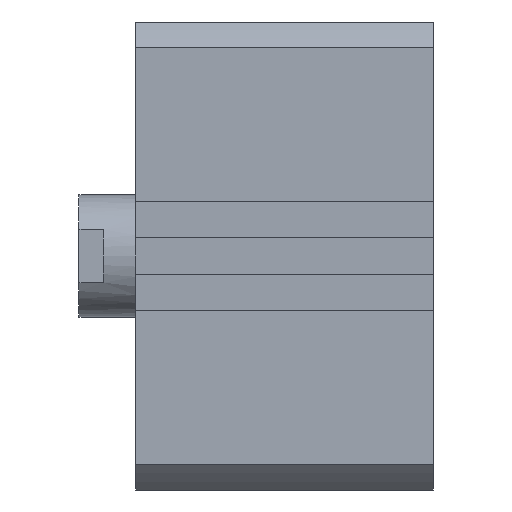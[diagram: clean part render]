
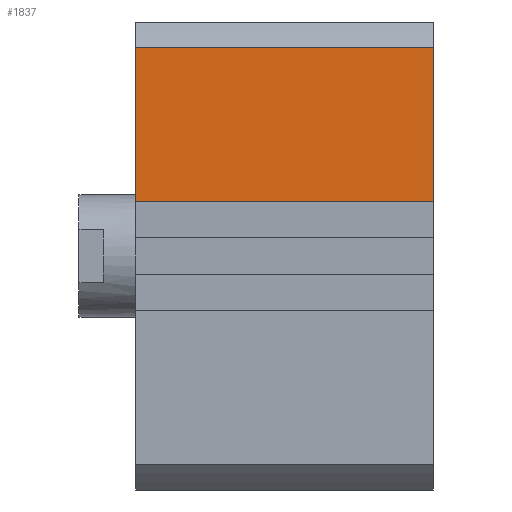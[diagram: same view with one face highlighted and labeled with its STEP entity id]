
A CAD part, left-side view. The second image highlights one B-rep face of the part: STEP entity #1837.
In plain terms, the highlighted planar face has unit normal (-1, 0, 0).
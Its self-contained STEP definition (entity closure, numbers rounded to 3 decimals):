
#154 = DIRECTION ( 'NONE',  ( 0., 0., 1. ) ) ;
#174 = DIRECTION ( 'NONE',  ( 0., 0., 1. ) ) ;
#342 = VERTEX_POINT ( 'NONE', #1616 ) ;
#397 = EDGE_CURVE ( 'NONE', #2634, #342, #2857, .T. ) ;
#543 = VECTOR ( 'NONE', #154, 1000. ) ;
#797 = CARTESIAN_POINT ( 'NONE',  ( -57.5, -73., 0. ) ) ;
#842 = ORIENTED_EDGE ( 'NONE', *, *, #962, .T. ) ;
#869 = VECTOR ( 'NONE', #3024, 1000. ) ;
#962 = EDGE_CURVE ( 'NONE', #2878, #342, #1884, .T. ) ;
#987 = CARTESIAN_POINT ( 'NONE',  ( -57.5, -73., 51.213 ) ) ;
#1149 = DIRECTION ( 'NONE',  ( -1., 0., 0. ) ) ;
#1224 = CARTESIAN_POINT ( 'NONE',  ( -57.5, -73., 13.5 ) ) ;
#1260 = LINE ( 'NONE', #2670, #543 ) ;
#1601 = EDGE_CURVE ( 'NONE', #2384, #2878, #1260, .T. ) ;
#1616 = CARTESIAN_POINT ( 'NONE',  ( -57.5, 0., 51.213 ) ) ;
#1671 = AXIS2_PLACEMENT_3D ( 'NONE', #797, #1149, #174 ) ;
#1693 = FACE_OUTER_BOUND ( 'NONE', #2301, .T. ) ;
#1736 = VECTOR ( 'NONE', #3150, 1000. ) ;
#1808 = CARTESIAN_POINT ( 'NONE',  ( -57.5, -73., 51.213 ) ) ;
#1837 = ADVANCED_FACE ( 'NONE', ( #1693 ), #3228, .T. ) ;
#1884 = LINE ( 'NONE', #1808, #1736 ) ;
#1977 = ORIENTED_EDGE ( 'NONE', *, *, #397, .F. ) ;
#2119 = DIRECTION ( 'NONE',  ( 0., 0., 1. ) ) ;
#2279 = LINE ( 'NONE', #1224, #869 ) ;
#2297 = ORIENTED_EDGE ( 'NONE', *, *, #1601, .T. ) ;
#2301 = EDGE_LOOP ( 'NONE', ( #1977, #2307, #2297, #842 ) ) ;
#2307 = ORIENTED_EDGE ( 'NONE', *, *, #2443, .F. ) ;
#2384 = VERTEX_POINT ( 'NONE', #3244 ) ;
#2425 = VECTOR ( 'NONE', #2119, 1000. ) ;
#2443 = EDGE_CURVE ( 'NONE', #2384, #2634, #2279, .T. ) ;
#2634 = VERTEX_POINT ( 'NONE', #3069 ) ;
#2670 = CARTESIAN_POINT ( 'NONE',  ( -57.5, -73., 0. ) ) ;
#2857 = LINE ( 'NONE', #3170, #2425 ) ;
#2878 = VERTEX_POINT ( 'NONE', #987 ) ;
#3024 = DIRECTION ( 'NONE',  ( 0., 1., 0. ) ) ;
#3069 = CARTESIAN_POINT ( 'NONE',  ( -57.5, 0., 13.5 ) ) ;
#3150 = DIRECTION ( 'NONE',  ( 0., 1., 0. ) ) ;
#3170 = CARTESIAN_POINT ( 'NONE',  ( -57.5, 0., 0. ) ) ;
#3228 = PLANE ( 'NONE',  #1671 ) ;
#3244 = CARTESIAN_POINT ( 'NONE',  ( -57.5, -73., 13.5 ) ) ;
